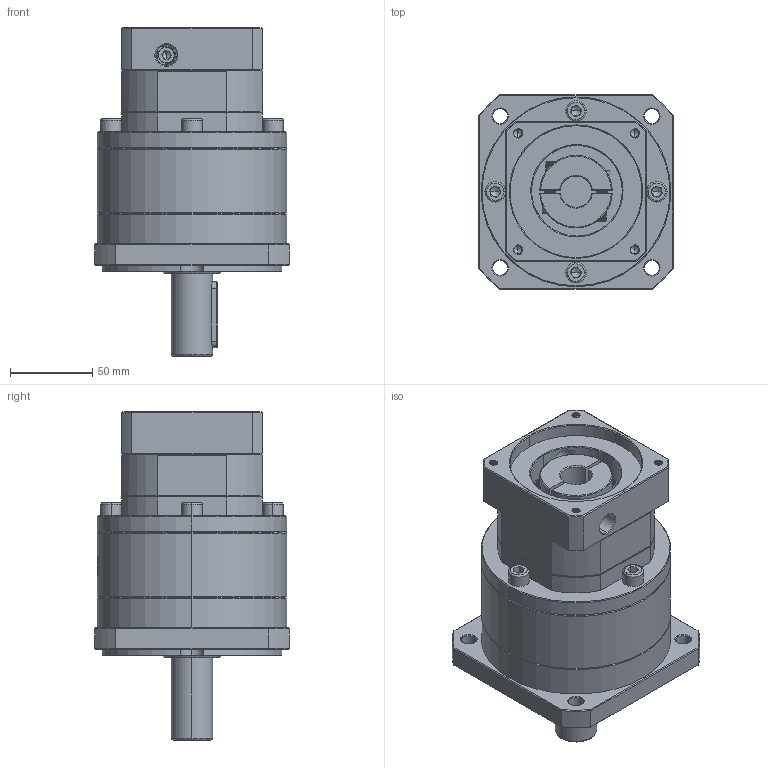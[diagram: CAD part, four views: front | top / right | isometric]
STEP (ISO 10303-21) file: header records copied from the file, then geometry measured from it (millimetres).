
FILE_DESCRIPTION (( 'STEP AP214' ), '1' );
FILE_NAME ('ZF120A-D25-L2-P2-19-80-100-M6.step', '2023-08-27T05:57:48', ( '' ), ( '' ), 'SwSTEP 2.0', 'SolidWorks 2016', '' );
FILE_SCHEMA (( 'AUTOMOTIVE_DESIGN' ));
Length unit declared in the file: millimetre
Products named in the file (1): ZF120A-D25-L2-P2-19-80-100-M6
Bounding box: 118 x 118 x 199 mm (x, y, z)
Volume: 1265470.7 mm3; surface area: 127833.4 mm2
Topology: 5 solids, 6 shells, 2212 faces, 5871 edges, 3758 vertices
Faces by surface type: plane 1064, bspline 419, cylinder 402, cone 312, torus 15
Entity records: 120966 total; most frequent: CARTESIAN_POINT 47191, ORIENTED_EDGE 11682, DIRECTION 8412, EDGE_CURVE 5841, VERTEX_POINT 3758, LINE 3098, VECTOR 3098, AXIS2_PLACEMENT_3D 2657
